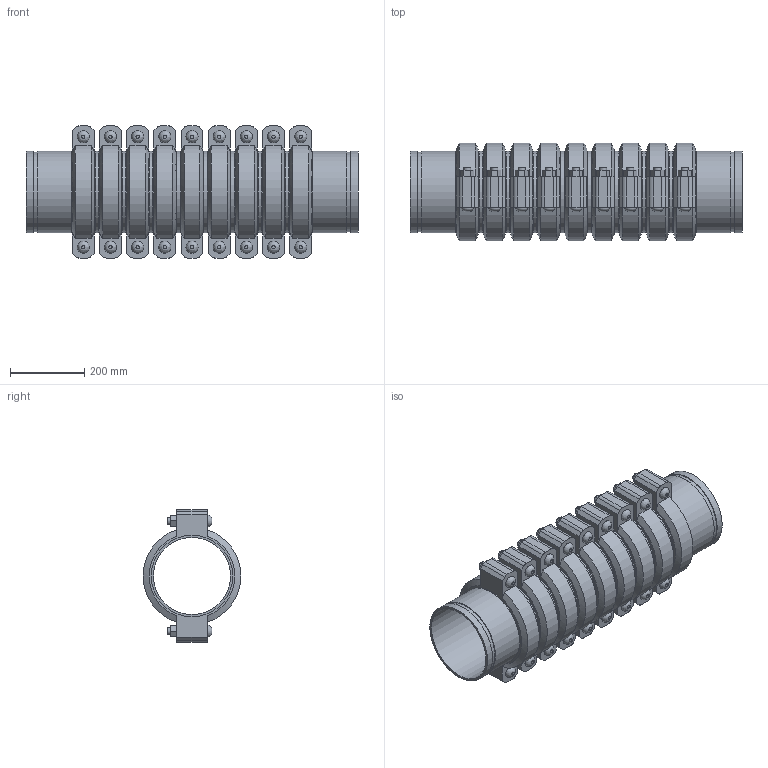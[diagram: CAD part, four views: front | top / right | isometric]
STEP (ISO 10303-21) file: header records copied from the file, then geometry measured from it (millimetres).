
FILE_DESCRIPTION(/* description */ ('VIC SS EXPANSION JOINT 9 COUPLINGS NEUTRAL STYLE 155P (OGS) (POTABLE WATER) ','CAx-IF Rec.Pracs.---Representation and Presentation of Product Manufacturing Information (PMI)---4.0---2014-10-13'),/* implementation_level */ '2;1');
FILE_NAME(/* name */ 'C:\Users\kkamble\AppData\Roaming\Autodesk\ApplicationPlugins\Victaulic.Temp\A561\Victaulic_SS_Expansion Joint_Neutral_9 Couplings_Style 155P (OGS)-Potable Water_9 Coup_Neut_8 (200).stp',/* time_stamp */ '2021-07-16T16:40:11+05:00',/* author */ ('kkamble'),/* organization */ ('Victaulic'),/* preprocessor_version */ 'ST-DEVELOPER v17.2',/* originating_system */ 'Autodesk Inventor 2019',/* authorisation */ '');
FILE_SCHEMA (('AP242_MANAGED_MODEL_BASED_3D_ENGINEERING_MIM_LF { 1 0 10303 442 1 1 4 }'));
Length unit declared in the file: inch
Products named in the file (4): 155P-08.0; Nipple-08.0; Nipple-08.0_1; 075-08.0
Assembly tree (19 placements, depth 2):
  155P-08.0
    Nipple-08.0  x2
    Nipple-08.0_1  x8
    075-08.0  x9
Bounding box: 892.3 x 261.72 x 354.84 mm (x, y, z)
Volume: 15507347.5 mm3; surface area: 2831950.7 mm2
Topology: 19 solids, 37 shells, 633 faces, 1497 edges, 1050 vertices
Faces by surface type: plane 384, cylinder 195, cone 36, bspline 18
Full cylindrical faces by diameter (mm): 19.05 x36, 21.209 x18, 206.985 x10, 212.725 x9, 214.401 x20, 219.075 x48
Entity records: 2865 total; most frequent: CARTESIAN_POINT 503, DIRECTION 481, ORIENTED_EDGE 386, AXIS2_PLACEMENT_3D 194, EDGE_CURVE 193, VERTEX_POINT 138, EDGE_LOOP 107, LINE 93
